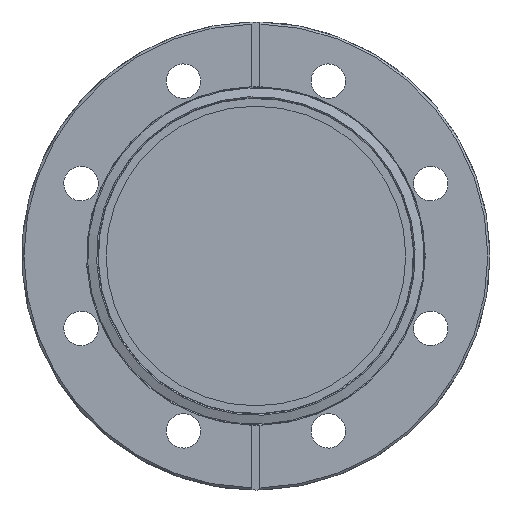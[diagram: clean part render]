
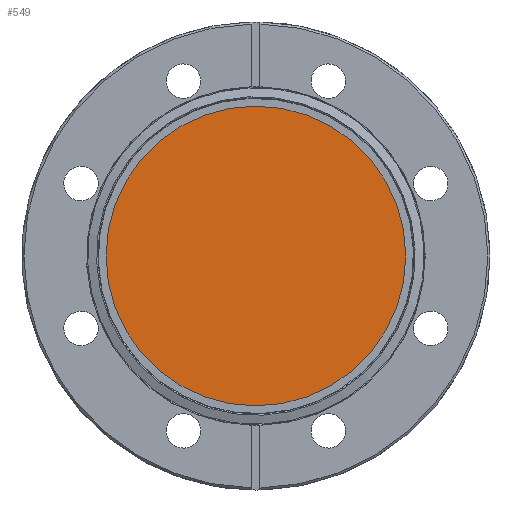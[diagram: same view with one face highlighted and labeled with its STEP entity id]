
A CAD part, front view. The second image highlights one B-rep face of the part: STEP entity #549.
In plain terms, the highlighted planar face has unit normal (0, -1, 0).
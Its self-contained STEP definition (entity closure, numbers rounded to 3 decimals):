
#38=PLANE('',#595);
#50=FACE_OUTER_BOUND('',#80,.T.);
#80=EDGE_LOOP('',(#377));
#195=CIRCLE('',#594,36.5);
#241=VERTEX_POINT('',#860);
#295=EDGE_CURVE('',#241,#241,#195,.T.);
#377=ORIENTED_EDGE('',*,*,#295,.F.);
#549=ADVANCED_FACE('',(#50),#38,.T.);
#594=AXIS2_PLACEMENT_3D('',#862,#675,#676);
#595=AXIS2_PLACEMENT_3D('',#863,#677,#678);
#675=DIRECTION('center_axis',(0.,1.,0.));
#676=DIRECTION('ref_axis',(1.,0.,0.));
#677=DIRECTION('center_axis',(0.,-1.,0.));
#678=DIRECTION('ref_axis',(1.,0.,0.));
#860=CARTESIAN_POINT('',(-36.5,2.5,0.));
#862=CARTESIAN_POINT('Origin',(0.,2.5,0.));
#863=CARTESIAN_POINT('Origin',(0.,2.5,0.));
